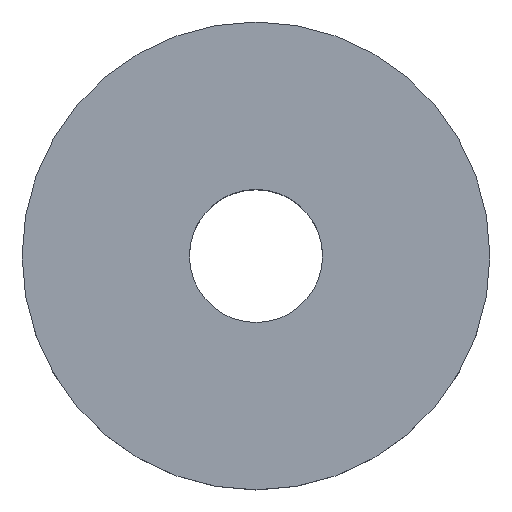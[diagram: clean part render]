
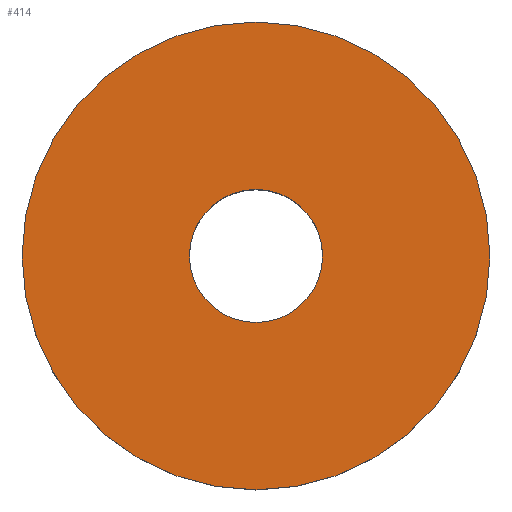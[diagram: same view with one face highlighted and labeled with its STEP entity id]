
A CAD part, top view. The second image highlights one B-rep face of the part: STEP entity #414.
In plain terms, the highlighted planar face has unit normal (0, 0, 1).
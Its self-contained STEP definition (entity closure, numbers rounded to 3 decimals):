
#13 = FACE_OUTER_BOUND ( 'NONE', #148, .T. ) ;
#14 = VERTEX_POINT ( 'NONE', #162 ) ;
#17 = AXIS2_PLACEMENT_3D ( 'NONE', #69, #434, #28 ) ;
#21 = DIRECTION ( 'NONE',  ( 1., 0., 0. ) ) ;
#28 = DIRECTION ( 'NONE',  ( 1., 0., 0. ) ) ;
#35 = VERTEX_POINT ( 'NONE', #365 ) ;
#52 = EDGE_CURVE ( 'NONE', #456, #14, #295, .T. ) ;
#54 = FACE_BOUND ( 'NONE', #297, .T. ) ;
#58 = ORIENTED_EDGE ( 'NONE', *, *, #173, .F. ) ;
#62 = PLANE ( 'NONE',  #131 ) ;
#68 = ORIENTED_EDGE ( 'NONE', *, *, #52, .T. ) ;
#69 = CARTESIAN_POINT ( 'NONE',  ( 0., 0., 8.3 ) ) ;
#73 = CARTESIAN_POINT ( 'NONE',  ( -6.5, 0., 8.3 ) ) ;
#86 = DIRECTION ( 'NONE',  ( 1., 0., 0. ) ) ;
#87 = DIRECTION ( 'NONE',  ( 0., 0., 1. ) ) ;
#125 = ORIENTED_EDGE ( 'NONE', *, *, #171, .T. ) ;
#131 = AXIS2_PLACEMENT_3D ( 'NONE', #268, #136, #327 ) ;
#136 = DIRECTION ( 'NONE',  ( 0., 0., 1. ) ) ;
#148 = EDGE_LOOP ( 'NONE', ( #125, #68 ) ) ;
#156 = CIRCLE ( 'NONE', #402, 6.5 ) ;
#162 = CARTESIAN_POINT ( 'NONE',  ( 6.5, 0., 8.3 ) ) ;
#171 = EDGE_CURVE ( 'NONE', #14, #456, #156, .T. ) ;
#173 = EDGE_CURVE ( 'NONE', #35, #389, #377, .T. ) ;
#183 = CARTESIAN_POINT ( 'NONE',  ( 0., 0., 8.3 ) ) ;
#219 = CARTESIAN_POINT ( 'NONE',  ( 0., 0., 8.3 ) ) ;
#258 = EDGE_CURVE ( 'NONE', #389, #35, #431, .T. ) ;
#261 = DIRECTION ( 'NONE',  ( 1., 0., 0. ) ) ;
#268 = CARTESIAN_POINT ( 'NONE',  ( 0., 0., 8.3 ) ) ;
#282 = ORIENTED_EDGE ( 'NONE', *, *, #258, .F. ) ;
#286 = AXIS2_PLACEMENT_3D ( 'NONE', #396, #401, #21 ) ;
#295 = CIRCLE ( 'NONE', #286, 6.5 ) ;
#297 = EDGE_LOOP ( 'NONE', ( #282, #58 ) ) ;
#327 = DIRECTION ( 'NONE',  ( 1., 0., 0. ) ) ;
#365 = CARTESIAN_POINT ( 'NONE',  ( 1.85, 0., 8.3 ) ) ;
#377 = CIRCLE ( 'NONE', #433, 1.85 ) ;
#389 = VERTEX_POINT ( 'NONE', #442 ) ;
#396 = CARTESIAN_POINT ( 'NONE',  ( 0., 0., 8.3 ) ) ;
#401 = DIRECTION ( 'NONE',  ( 0., 0., 1. ) ) ;
#402 = AXIS2_PLACEMENT_3D ( 'NONE', #219, #453, #261 ) ;
#414 = ADVANCED_FACE ( 'NONE', ( #54, #13 ), #62, .T. ) ;
#431 = CIRCLE ( 'NONE', #17, 1.85 ) ;
#433 = AXIS2_PLACEMENT_3D ( 'NONE', #183, #87, #86 ) ;
#434 = DIRECTION ( 'NONE',  ( 0., 0., 1. ) ) ;
#442 = CARTESIAN_POINT ( 'NONE',  ( -1.85, 0., 8.3 ) ) ;
#453 = DIRECTION ( 'NONE',  ( 0., 0., 1. ) ) ;
#456 = VERTEX_POINT ( 'NONE', #73 ) ;
